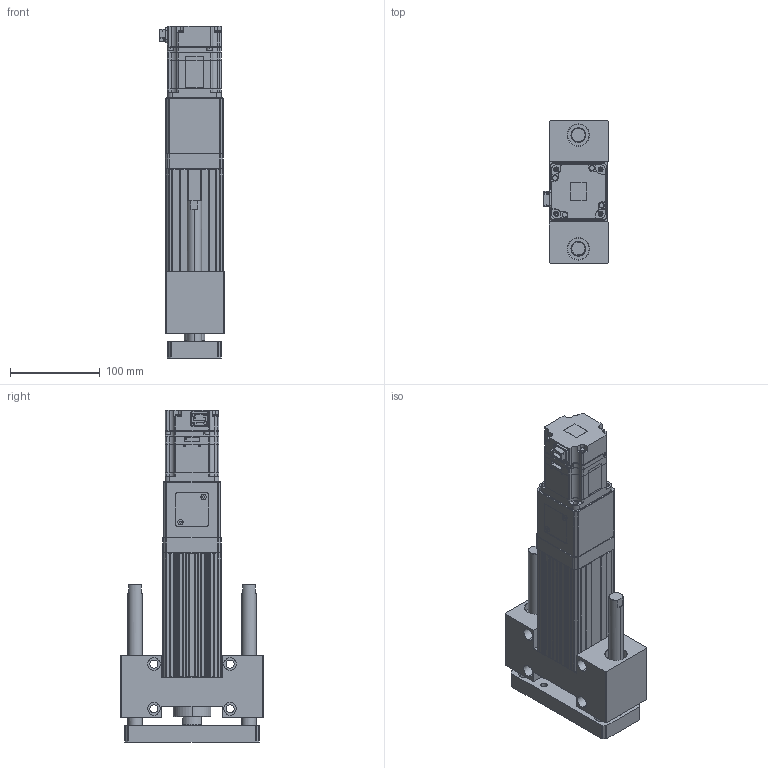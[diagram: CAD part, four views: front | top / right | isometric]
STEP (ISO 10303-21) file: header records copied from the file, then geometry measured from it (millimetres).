
FILE_DESCRIPTION (( 'STEP AP203' ), '1' );
FILE_NAME ('ANS065-HS050-05(10)-W20.STEP', '2019-03-01T04:11:47', ( 'user' ), ( '' ), 'SwSTEP 2.0', 'SolidWorks 2013', '' );
FILE_SCHEMA (( 'CONFIG_CONTROL_DESIGN' ));
Length unit declared in the file: millimetre
Products named in the file (4): ANS065-HS050-05(10)-W20; ANS065 HS050 VER2; ANS065 ROD ST050 G; sgmjv_02a_a21
Assembly tree (3 placements, depth 2):
  ANS065-HS050-05(10)-W20
    ANS065 HS050 VER2
    ANS065 ROD ST050 G
    sgmjv_02a_a21
Bounding box: 72.3 x 160 x 370.6 mm (x, y, z)
Volume: 1506401.9 mm3; surface area: 286503.6 mm2
Topology: 3 solids, 7 shells, 1237 faces, 3245 edges, 2091 vertices
Faces by surface type: plane 697, cylinder 430, cone 110
Entity records: 38305 total; most frequent: CARTESIAN_POINT 6793, DIRECTION 6569, ORIENTED_EDGE 6434, EDGE_CURVE 3217, VECTOR 2207, LINE 2207, AXIS2_PLACEMENT_3D 2181, VERTEX_POINT 2091
